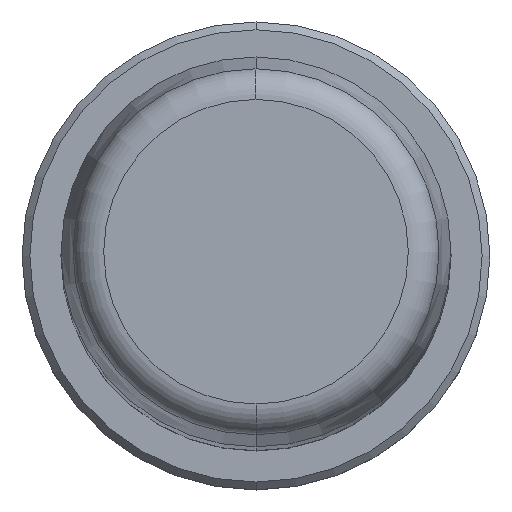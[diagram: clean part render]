
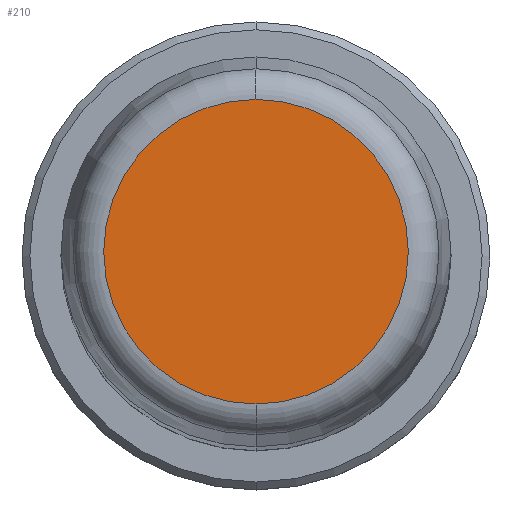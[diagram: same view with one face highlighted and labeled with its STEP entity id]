
A CAD part, top view. The second image highlights one B-rep face of the part: STEP entity #210.
In plain terms, the highlighted planar face has unit normal (0, 0, 1).
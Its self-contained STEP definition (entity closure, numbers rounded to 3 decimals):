
#1=CARTESIAN_POINT('',(0.,0.,160.));
#2=DIRECTION('',(0.,0.,-1.));
#3=DIRECTION('',(0.,-1.,0.));
#4=AXIS2_PLACEMENT_3D('',#1,#2,#3);
#6=CARTESIAN_POINT('',(0.,0.,160.));
#7=DIRECTION('',(0.,0.,-1.));
#8=DIRECTION('',(0.,1.,0.));
#9=AXIS2_PLACEMENT_3D('',#6,#7,#8);
#183=CARTESIAN_POINT('',(0.,-9.764,160.));
#184=CARTESIAN_POINT('',(0.,9.764,160.));
#185=VERTEX_POINT('',#183);
#186=VERTEX_POINT('',#184);
#199=CARTESIAN_POINT('',(0.,0.,160.));
#200=DIRECTION('',(0.,0.,1.));
#201=DIRECTION('',(0.,-1.,0.));
#202=AXIS2_PLACEMENT_3D('',#199,#200,#201);
#203=PLANE('',#202);
#205=ORIENTED_EDGE('',*,*,#204,.T.);
#207=ORIENTED_EDGE('',*,*,#206,.T.);
#208=EDGE_LOOP('',(#205,#207));
#209=FACE_OUTER_BOUND('',#208,.F.);
#210=ADVANCED_FACE('',(#209),#203,.T.);
#5=CIRCLE('',#4,9.764);
#10=CIRCLE('',#9,9.764);
#204=EDGE_CURVE('',#185,#186,#5,.T.);
#206=EDGE_CURVE('',#186,#185,#10,.T.);
